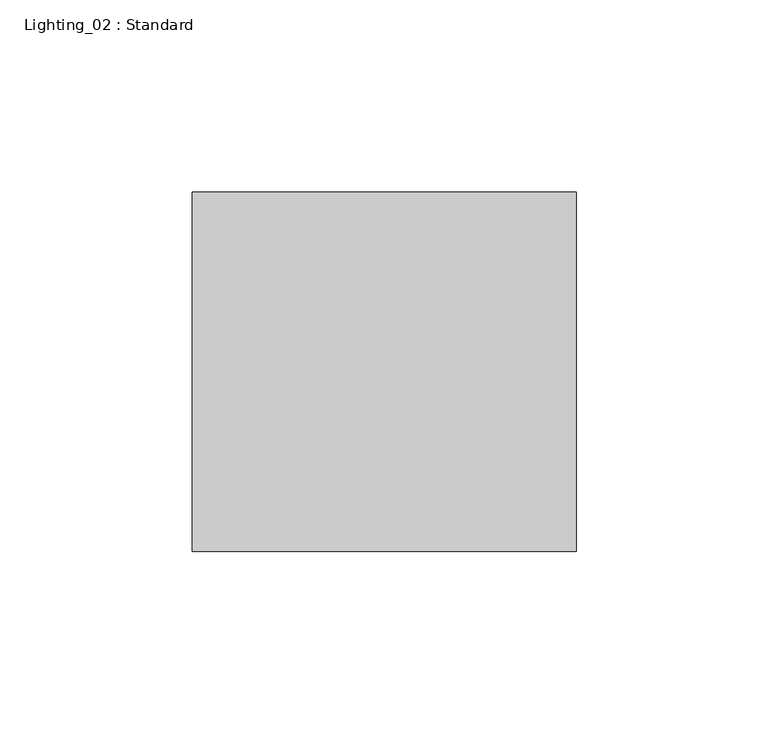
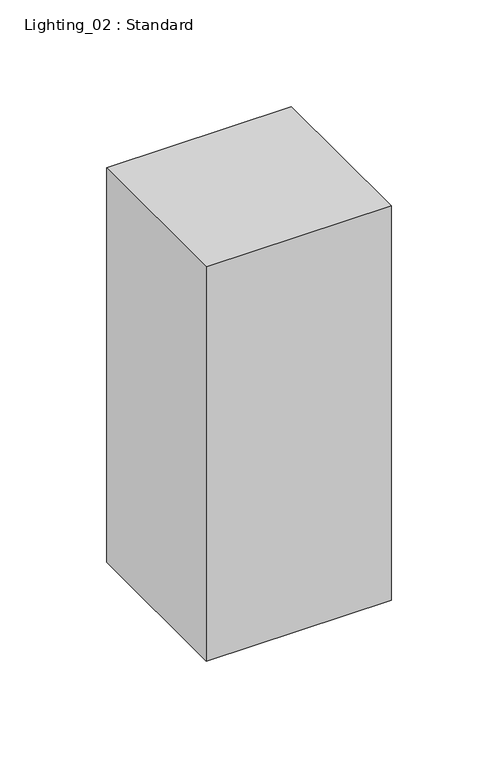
"""IFC4 building model written with IfcOpenShell, lengths in millimetres: light fixture geometry, Lighting_02 : Standard."""

from ifc_helpers import new_model, si_unit, origin, origin_with_axes, place, context, project, spatial, polyline, outline, extrude, source, transform, mapped, element, save


def lighting_02_standard_022d6cc6(model_context):
    return source(origin(), model_context, "Body", "SweptSolid", [
        extrude(outline(polyline([(-50.0, -5.9698099), (-50.0, 87.7569087), (50.0, 87.7569087), (50.0, -5.9698099), (-50.0, -5.9698099)])), origin_with_axes(), (0.0, 0.0, 1.0), 225.9310024),
    ])


if __name__ == "__main__":
    model = new_model("IFC4")
    model_context = context("Model", 3, world=origin())
    ifc_project = project(units=[si_unit("LENGTHUNIT", "METRE", prefix="MILLI")], contexts=[model_context])
    site = spatial("IfcSite", under=ifc_project)
    building = spatial("IfcBuilding", under=site)
    placement = place(None, origin())
    lighting_02_standard_shape = lighting_02_standard_022d6cc6(model_context)
    element("IfcLightFixture", 1, ObjectType="Lighting_02 : Standard", at=placement, inside=building, context=model_context, shape_type="MappedRepresentation", body=[
        mapped(lighting_02_standard_shape, transform((0.0, 0.0, 0.0), x_axis=(1.0, 0.0, 0.0), y_axis=(0.0, 1.0, 0.0), z_axis=(0.0, 0.0, 1.0))),
    ])
    save(model, "model.ifc")
